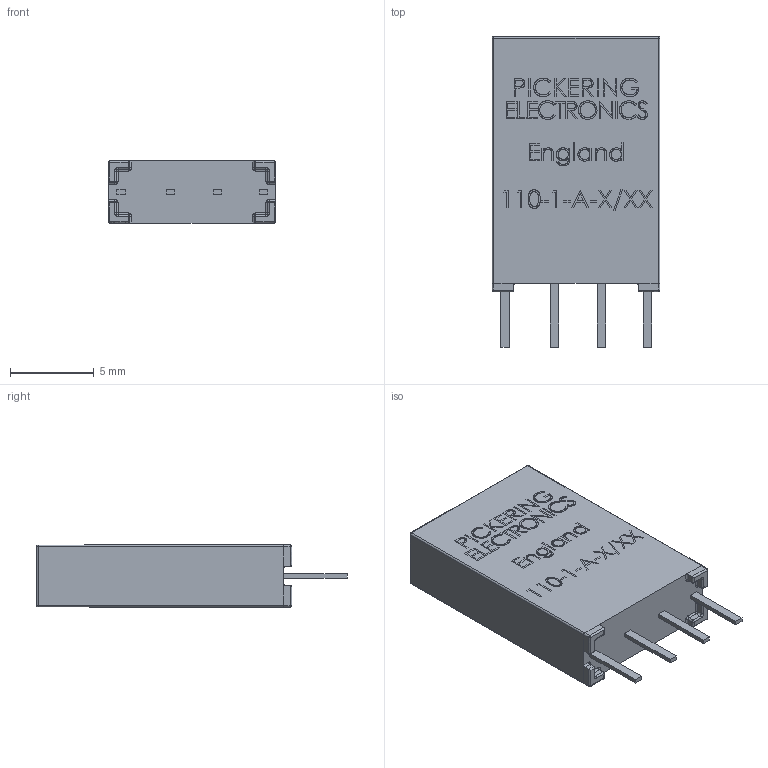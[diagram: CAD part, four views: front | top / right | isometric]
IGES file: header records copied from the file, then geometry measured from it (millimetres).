
Start section: SolidWorks IGES file using analytic representation for surfaces
Global section: file name: C:\Documents and Settings\alex.leming\Desktop\Replacement Models\110-1-A.IGS; native system: SolidWorks 2009; preprocessor: SolidWorks 2009; author: alex.leming; date: 101126.114030; units: millimetre
Bounding box: 10 x 18.5 x 3.7 mm (x, y, z)
Surface area: 509.5 mm2 (no closed solid volume)
Topology: 0 solids, 0 shells, 779 faces, 6307 edges, 6291 vertices
Faces by surface type: bspline 693, revolution 86
